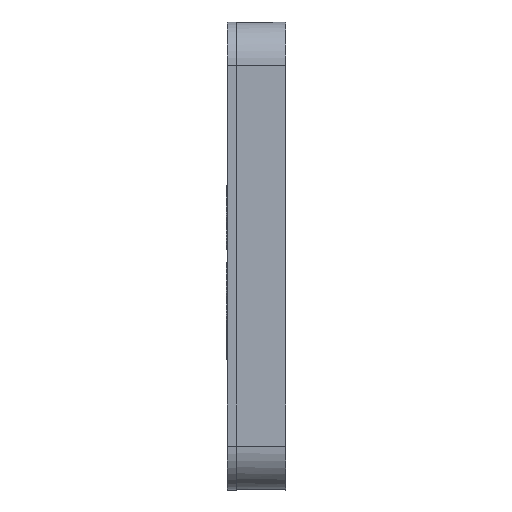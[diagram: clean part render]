
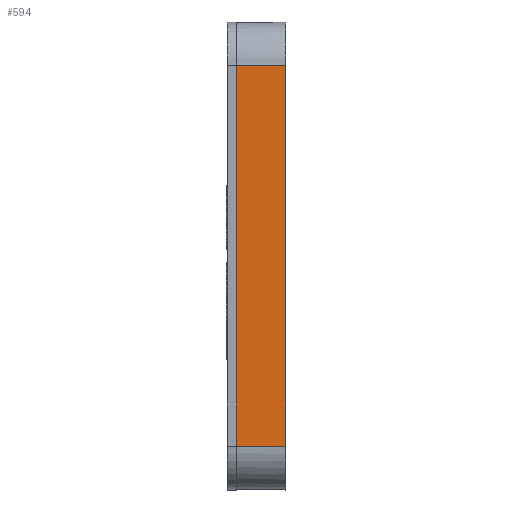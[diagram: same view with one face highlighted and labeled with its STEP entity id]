
A CAD part, left-side view. The second image highlights one B-rep face of the part: STEP entity #594.
In plain terms, the highlighted planar face has unit normal (-1, 0, 0.002).
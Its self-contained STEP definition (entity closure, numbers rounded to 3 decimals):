
#200=DIRECTION('',(0.002,0.,1.));
#201=VECTOR('',#200,65.);
#202=CARTESIAN_POINT('',(-121.072,8.4,-32.23));
#203=LINE('',#202,#201);
#204=DIRECTION('',(0.,1.,0.));
#205=VECTOR('',#204,8.4);
#206=CARTESIAN_POINT('',(-120.927,0.,
32.769));
#207=LINE('',#206,#205);
#208=DIRECTION('',(0.002,0.,1.));
#209=VECTOR('',#208,65.);
#210=CARTESIAN_POINT('',(-121.072,0.,
-32.23));
#211=LINE('',#210,#209);
#212=DIRECTION('',(0.,-1.,0.));
#213=VECTOR('',#212,8.4);
#214=CARTESIAN_POINT('',(-121.072,8.4,-32.23));
#215=LINE('',#214,#213);
#216=CARTESIAN_POINT('',(-120.927,0.,32.769));
#218=VERTEX_POINT('',#216);
#221=CARTESIAN_POINT('',(-121.072,0.,-32.23));
#223=VERTEX_POINT('',#221);
#240=CARTESIAN_POINT('',(-121.072,8.4,-32.23));
#241=CARTESIAN_POINT('',(-120.927,8.4,32.769));
#242=VERTEX_POINT('',#240);
#243=VERTEX_POINT('',#241);
#583=CARTESIAN_POINT('',(-121.039,8.4,-17.231));
#584=DIRECTION('',(-1.,0.,0.002));
#585=DIRECTION('',(0.002,0.,1.));
#586=AXIS2_PLACEMENT_3D('',#583,#584,#585);
#587=PLANE('',#586);
#588=ORIENTED_EDGE('',*,*,#384,.T.);
#589=ORIENTED_EDGE('',*,*,#327,.F.);
#590=ORIENTED_EDGE('',*,*,#301,.F.);
#591=ORIENTED_EDGE('',*,*,#370,.F.);
#592=EDGE_LOOP('',(#588,#589,#590,#591));
#593=FACE_OUTER_BOUND('',#592,.F.);
#594=ADVANCED_FACE('',(#593),#587,.T.);
#301=EDGE_CURVE('',#223,#218,#211,.T.);
#327=EDGE_CURVE('',#218,#243,#207,.T.);
#370=EDGE_CURVE('',#242,#223,#215,.T.);
#384=EDGE_CURVE('',#242,#243,#203,.T.);
